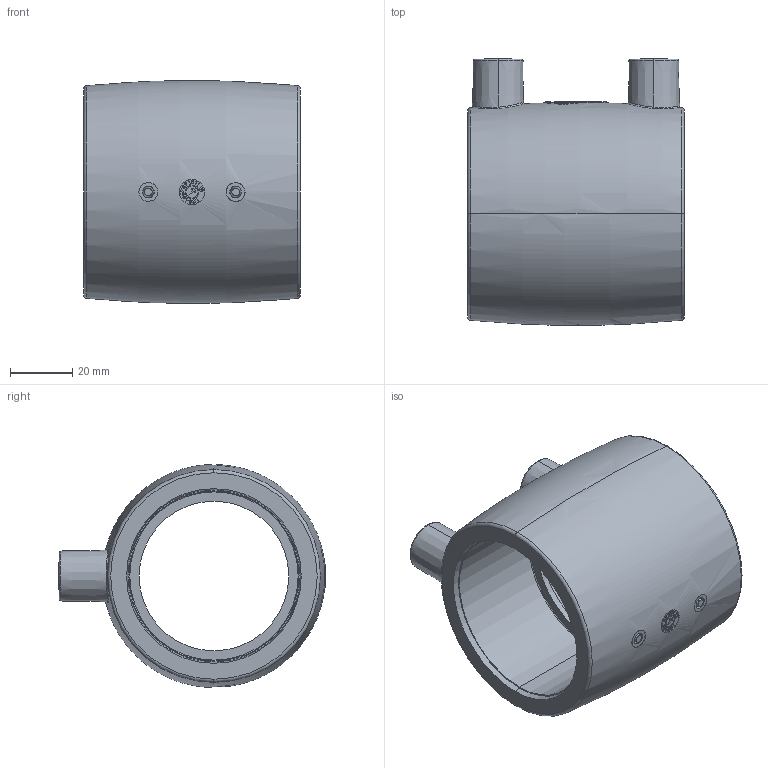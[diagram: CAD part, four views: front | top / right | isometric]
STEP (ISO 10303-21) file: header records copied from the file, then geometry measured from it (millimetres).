
FILE_DESCRIPTION (( 'STEP AP203' ), '1' );
FILE_NAME ('KP_2-54.step', '2011-08-08T12:06:22', ( '' ), ( '' ), 'SwSTEP 2.0', 'SolidWorks 2011', '' );
FILE_SCHEMA (( 'CONFIG_CONTROL_DESIGN' ));
Length unit declared in the file: millimetre
Products named in the file (1): KP_2-54
Bounding box: 69.4 x 85.53 x 71.42 mm (x, y, z)
Volume: 110681.5 mm3; surface area: 61459.9 mm2
Topology: 1 solids, 2 shells, 605 faces, 1559 edges, 1028 vertices
Faces by surface type: plane 294, bspline 134, cylinder 83, torus 49, cone 45
Entity records: 27964 total; most frequent: CARTESIAN_POINT 14876, ORIENTED_EDGE 3118, DIRECTION 1984, EDGE_CURVE 1559, VERTEX_POINT 1028, EDGE_LOOP 687, LINE 668, VECTOR 668
